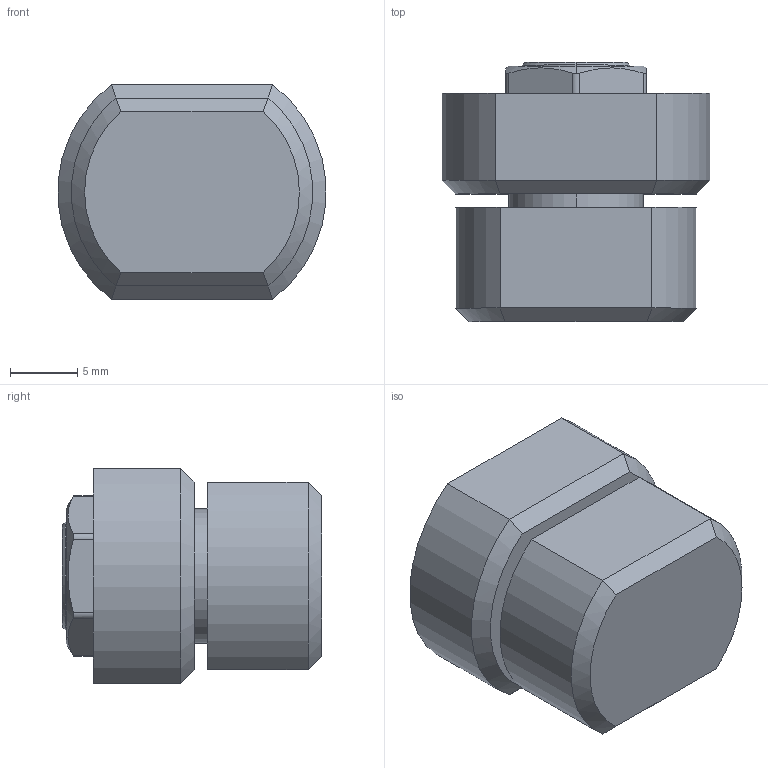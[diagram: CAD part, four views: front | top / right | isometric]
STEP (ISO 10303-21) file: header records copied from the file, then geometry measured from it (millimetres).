
FILE_DESCRIPTION (( 'STEP AP203' ), '1' );
FILE_NAME ('XG11-002-2.STEP', '2025-07-04T06:12:25', ( '微软用户' ), ( '微软中国' ), 'SwSTEP 2.0', 'SolidWorks 2024', '' );
FILE_SCHEMA (( 'CONFIG_CONTROL_DESIGN' ));
Length unit declared in the file: millimetre
Products named in the file (1): XG11-002-2
Bounding box: 19.93 x 19.3 x 16 mm (x, y, z)
Volume: 4057.3 mm3; surface area: 2215 mm2
Topology: 1 solids, 1 shells, 52 faces, 118 edges, 75 vertices
Faces by surface type: plane 23, cylinder 21, cone 8
Entity records: 1600 total; most frequent: CARTESIAN_POINT 356, DIRECTION 245, ORIENTED_EDGE 236, EDGE_CURVE 118, AXIS2_PLACEMENT_3D 96, VERTEX_POINT 75, EDGE_LOOP 59, LINE 53
